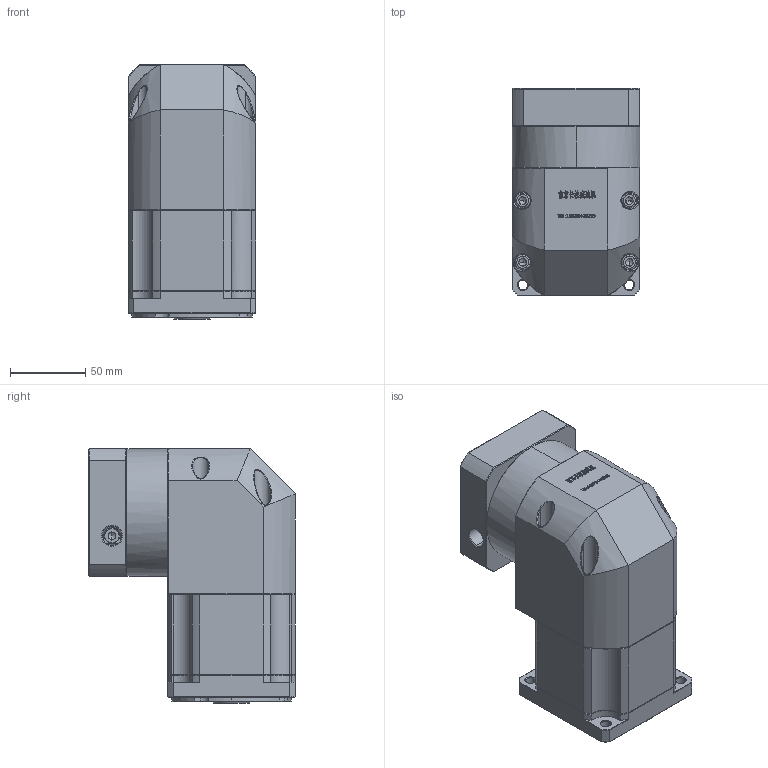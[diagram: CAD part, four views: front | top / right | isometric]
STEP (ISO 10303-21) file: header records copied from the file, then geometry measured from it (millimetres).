
FILE_DESCRIPTION (( 'STEP AP214' ), '1' );
FILE_NAME ('ZBR90-K15-L2-12.7-73-69.5X69.5-M6.step', '2022-05-07T15:11:02', ( '' ), ( 'Microsoft' ), 'SwSTEP 2.0', 'SolidWorks 2016', '' );
FILE_SCHEMA (( 'AUTOMOTIVE_DESIGN' ));
Length unit declared in the file: millimetre
Products named in the file (1): ZBR90-K15-L2-12.7-73-69.5X69.5-M6
Bounding box: 85 x 137.6 x 169.5 mm (x, y, z)
Volume: 1288114.9 mm3; surface area: 134351.9 mm2
Topology: 5 solids, 5 shells, 2943 faces, 7798 edges, 4988 vertices
Faces by surface type: plane 1570, bspline 596, cylinder 409, cone 344, torus 24
Entity records: 157463 total; most frequent: CARTESIAN_POINT 56751, ORIENTED_EDGE 15524, DIRECTION 11864, EDGE_CURVE 7762, VECTOR 5224, LINE 5224, VERTEX_POINT 4988, AXIS2_PLACEMENT_3D 3320
